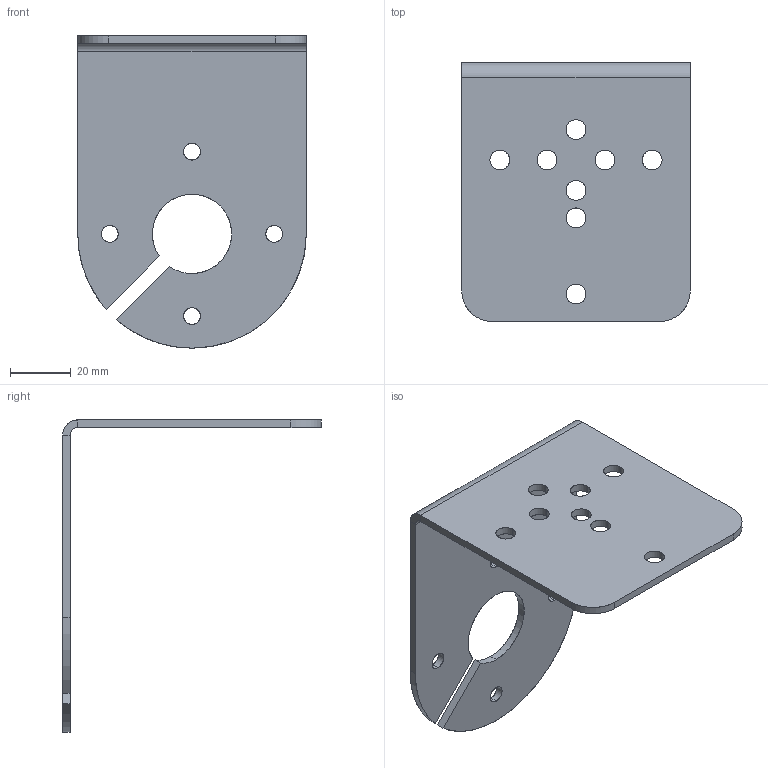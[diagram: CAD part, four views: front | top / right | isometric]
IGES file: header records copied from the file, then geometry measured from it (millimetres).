
Start section: SolidWorks IGES file using analytic representation for surfaces
Global section: file name: C:\Users\PDG_KS\OneDrive - Pfannenberg Group Holding GmbH\Home\BR50--M12\Daten\20230216_11443-035.IGS; native system: SolidWorks 2021; preprocessor: SolidWorks 2021; author: PDG_KS; date: 230216.110559; units: millimetre
Bounding box: 75 x 85 x 102.5 mm (x, y, z)
Surface area: 26260.8 mm2 (no closed solid volume)
Topology: 0 solids, 0 shells, 47 faces, 1154 edges, 1154 vertices
Faces by surface type: revolution 34, bspline 13
